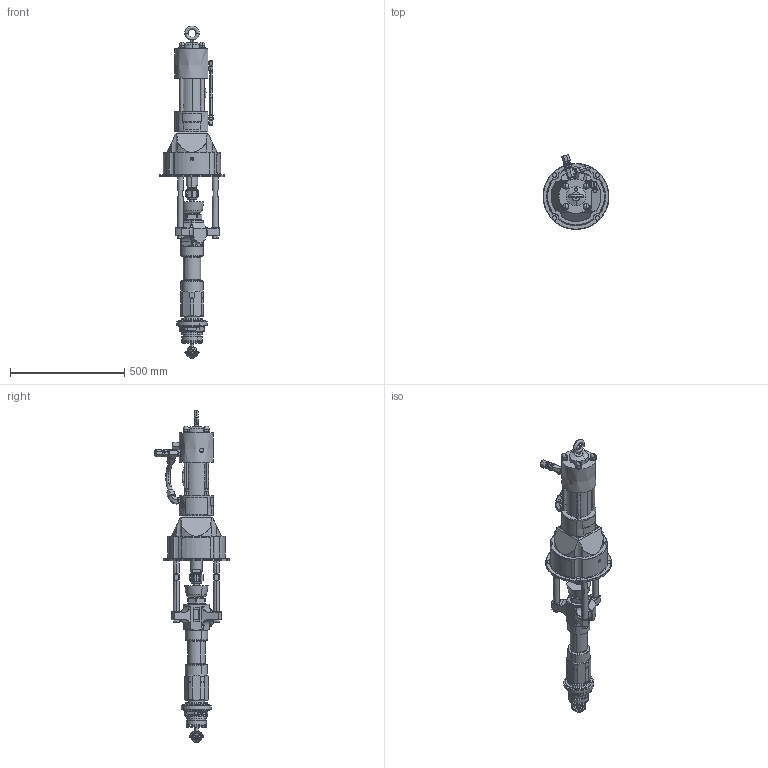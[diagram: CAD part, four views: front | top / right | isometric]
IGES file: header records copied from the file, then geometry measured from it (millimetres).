
Start section:  PTC IGES file: 246938-en-k.igs
Global section: file name: 246938-en-k.igs; native system: Creo Parametric by PTC Inc.; preprocessor: 2021072; author: qusrh3; organization: Unknown; date: 20221027.130322; units: inch
Bounding box: 289.05 x 327.56 x 1454.42 mm (x, y, z)
Surface area: 1238220 mm2 (no closed solid volume)
Topology: 0 solids, 0 shells, 937 faces, 4607 edges, 4597 vertices
Faces by surface type: revolution 543, bspline 394
